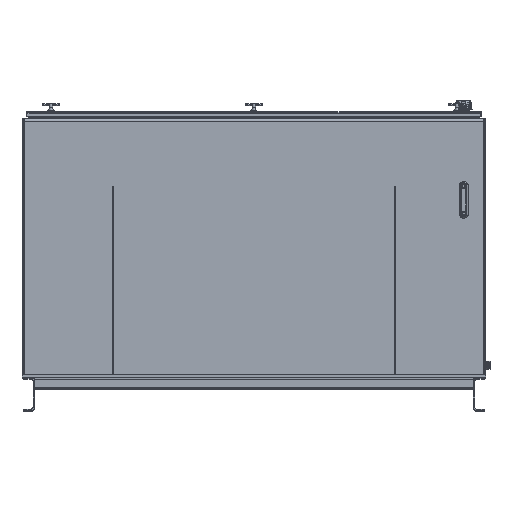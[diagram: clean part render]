
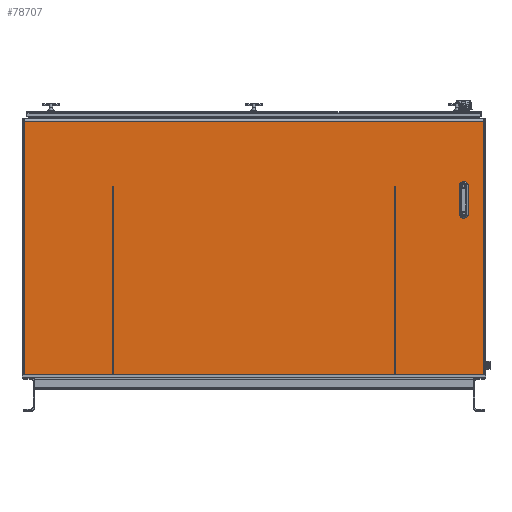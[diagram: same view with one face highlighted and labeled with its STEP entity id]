
A CAD part, top view. The second image highlights one B-rep face of the part: STEP entity #78707.
In plain terms, the highlighted planar face has unit normal (0, 0, 1).
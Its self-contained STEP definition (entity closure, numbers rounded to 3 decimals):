
#556 = PLANE ( 'NONE',  #48849 ) ;
#1627 = DIRECTION ( 'NONE',  ( -1., 0., 0. ) ) ;
#2478 = EDGE_CURVE ( 'NONE', #68621, #39810, #64444, .T. ) ;
#3028 = ORIENTED_EDGE ( 'NONE', *, *, #2478, .F. ) ;
#3052 = CARTESIAN_POINT ( 'NONE',  ( -45.592, -2.677, 0.199 ) ) ;
#3567 = LINE ( 'NONE', #40245, #59986 ) ;
#4771 = CARTESIAN_POINT ( 'NONE',  ( 38.158, -2.927, 0.199 ) ) ;
#6088 = VERTEX_POINT ( 'NONE', #4771 ) ;
#6500 = ORIENTED_EDGE ( 'NONE', *, *, #73047, .F. ) ;
#6911 = LINE ( 'NONE', #74979, #82850 ) ;
#11122 = EDGE_CURVE ( 'NONE', #76878, #26706, #16353, .T. ) ;
#12429 = EDGE_LOOP ( 'NONE', ( #3028, #74430 ) ) ;
#15441 = DIRECTION ( 'NONE',  ( 0., 0., -1. ) ) ;
#15867 = ORIENTED_EDGE ( 'NONE', *, *, #85858, .T. ) ;
#16353 = LINE ( 'NONE', #17017, #33647 ) ;
#17017 = CARTESIAN_POINT ( 'NONE',  ( 38.408, -2.927, 0.199 ) ) ;
#17481 = CARTESIAN_POINT ( 'NONE',  ( 38.408, -2.677, 0.199 ) ) ;
#18071 = DIRECTION ( 'NONE',  ( 0., -1., 0. ) ) ;
#18596 = VERTEX_POINT ( 'NONE', #84386 ) ;
#22505 = CARTESIAN_POINT ( 'NONE',  ( -45.592, 43.448, 0.199 ) ) ;
#23254 = CARTESIAN_POINT ( 'NONE',  ( 34.408, 26.261, 0.199 ) ) ;
#24384 = DIRECTION ( 'NONE',  ( 0., 1., 0. ) ) ;
#25229 = LINE ( 'NONE', #86806, #81556 ) ;
#25281 = DIRECTION ( 'NONE',  ( 0., 0., 1. ) ) ;
#26240 = VECTOR ( 'NONE', #79335, 39.37 ) ;
#26706 = VERTEX_POINT ( 'NONE', #64361 ) ;
#26948 = CARTESIAN_POINT ( 'NONE',  ( -45.592, -2.927, 0.199 ) ) ;
#30661 = DIRECTION ( 'NONE',  ( 1., 0., 0. ) ) ;
#33042 = VERTEX_POINT ( 'NONE', #44545 ) ;
#33161 = CARTESIAN_POINT ( 'NONE',  ( 34.674, 26.261, 0.199 ) ) ;
#33443 = EDGE_CURVE ( 'NONE', #26706, #18596, #6911, .T. ) ;
#33647 = VECTOR ( 'NONE', #24384, 39.37 ) ;
#34020 = CIRCLE ( 'NONE', #44240, 0.266 ) ;
#37841 = CARTESIAN_POINT ( 'NONE',  ( -45.342, -2.927, 0.199 ) ) ;
#38209 = CARTESIAN_POINT ( 'NONE',  ( 34.143, 31.261, 0.199 ) ) ;
#39051 = ORIENTED_EDGE ( 'NONE', *, *, #33443, .T. ) ;
#39065 = CARTESIAN_POINT ( 'NONE',  ( 34.143, 26.261, 0.199 ) ) ;
#39345 = VERTEX_POINT ( 'NONE', #3052 ) ;
#39810 = VERTEX_POINT ( 'NONE', #39065 ) ;
#40245 = CARTESIAN_POINT ( 'NONE',  ( -45.592, -2.927, 0.199 ) ) ;
#41040 = EDGE_LOOP ( 'NONE', ( #70978, #6500 ) ) ;
#41817 = DIRECTION ( 'NONE',  ( 0., 0., 1. ) ) ;
#42825 = DIRECTION ( 'NONE',  ( 0.707, -0.707, 0. ) ) ;
#43488 = EDGE_LOOP ( 'NONE', ( #15867, #49281, #51554, #52764, #83843, #39051 ) ) ;
#44240 = AXIS2_PLACEMENT_3D ( 'NONE', #85794, #41817, #93176 ) ;
#44545 = CARTESIAN_POINT ( 'NONE',  ( 34.674, 31.261, 0.199 ) ) ;
#45804 = LINE ( 'NONE', #49775, #26240 ) ;
#46917 = EDGE_CURVE ( 'NONE', #33042, #65200, #34020, .T. ) ;
#47241 = VECTOR ( 'NONE', #78348, 39.37 ) ;
#48849 = AXIS2_PLACEMENT_3D ( 'NONE', #22505, #15441, #66891 ) ;
#49281 = ORIENTED_EDGE ( 'NONE', *, *, #51810, .T. ) ;
#49529 = LINE ( 'NONE', #26948, #47241 ) ;
#49578 = VERTEX_POINT ( 'NONE', #37841 ) ;
#49775 = CARTESIAN_POINT ( 'NONE',  ( 38.408, -2.677, 0.199 ) ) ;
#49848 = FACE_OUTER_BOUND ( 'NONE', #43488, .T. ) ;
#51554 = ORIENTED_EDGE ( 'NONE', *, *, #86291, .T. ) ;
#51810 = EDGE_CURVE ( 'NONE', #39345, #49578, #25229, .T. ) ;
#52764 = ORIENTED_EDGE ( 'NONE', *, *, #91164, .T. ) ;
#54392 = AXIS2_PLACEMENT_3D ( 'NONE', #80113, #79188, #78871 ) ;
#54485 = FACE_BOUND ( 'NONE', #41040, .T. ) ;
#59986 = VECTOR ( 'NONE', #18071, 39.37 ) ;
#64361 = CARTESIAN_POINT ( 'NONE',  ( 38.408, 43.019, 0.199 ) ) ;
#64444 = CIRCLE ( 'NONE', #54392, 0.266 ) ;
#65200 = VERTEX_POINT ( 'NONE', #38209 ) ;
#66891 = DIRECTION ( 'NONE',  ( -1., 0., 0. ) ) ;
#68621 = VERTEX_POINT ( 'NONE', #33161 ) ;
#69358 = CARTESIAN_POINT ( 'NONE',  ( 34.408, 31.261, 0.199 ) ) ;
#69434 = FACE_BOUND ( 'NONE', #12429, .T. ) ;
#70978 = ORIENTED_EDGE ( 'NONE', *, *, #46917, .F. ) ;
#73047 = EDGE_CURVE ( 'NONE', #65200, #33042, #84934, .T. ) ;
#74430 = ORIENTED_EDGE ( 'NONE', *, *, #76705, .F. ) ;
#74647 = DIRECTION ( 'NONE',  ( 0., 0., 1. ) ) ;
#74979 = CARTESIAN_POINT ( 'NONE',  ( 38.408, 43.019, 0.199 ) ) ;
#75888 = CIRCLE ( 'NONE', #80045, 0.266 ) ;
#76690 = DIRECTION ( 'NONE',  ( 1., 0., 0. ) ) ;
#76705 = EDGE_CURVE ( 'NONE', #39810, #68621, #75888, .T. ) ;
#76878 = VERTEX_POINT ( 'NONE', #17481 ) ;
#78348 = DIRECTION ( 'NONE',  ( 1., 0., 0. ) ) ;
#78707 = ADVANCED_FACE ( 'NONE', ( #69434, #54485, #49848 ), #556, .F. ) ;
#78871 = DIRECTION ( 'NONE',  ( 1., 0., 0. ) ) ;
#79188 = DIRECTION ( 'NONE',  ( 0., 0., 1. ) ) ;
#79335 = DIRECTION ( 'NONE',  ( 0.707, 0.707, 0. ) ) ;
#80045 = AXIS2_PLACEMENT_3D ( 'NONE', #23254, #74647, #30661 ) ;
#80113 = CARTESIAN_POINT ( 'NONE',  ( 34.408, 26.261, 0.199 ) ) ;
#81556 = VECTOR ( 'NONE', #42825, 39.37 ) ;
#82850 = VECTOR ( 'NONE', #1627, 39.37 ) ;
#83843 = ORIENTED_EDGE ( 'NONE', *, *, #11122, .T. ) ;
#84386 = CARTESIAN_POINT ( 'NONE',  ( -45.592, 43.019, 0.199 ) ) ;
#84934 = CIRCLE ( 'NONE', #86485, 0.266 ) ;
#85794 = CARTESIAN_POINT ( 'NONE',  ( 34.408, 31.261, 0.199 ) ) ;
#85858 = EDGE_CURVE ( 'NONE', #18596, #39345, #3567, .T. ) ;
#86291 = EDGE_CURVE ( 'NONE', #49578, #6088, #49529, .T. ) ;
#86485 = AXIS2_PLACEMENT_3D ( 'NONE', #69358, #25281, #76690 ) ;
#86806 = CARTESIAN_POINT ( 'NONE',  ( -45.342, -2.927, 0.199 ) ) ;
#91164 = EDGE_CURVE ( 'NONE', #6088, #76878, #45804, .T. ) ;
#93176 = DIRECTION ( 'NONE',  ( 1., 0., 0. ) ) ;
